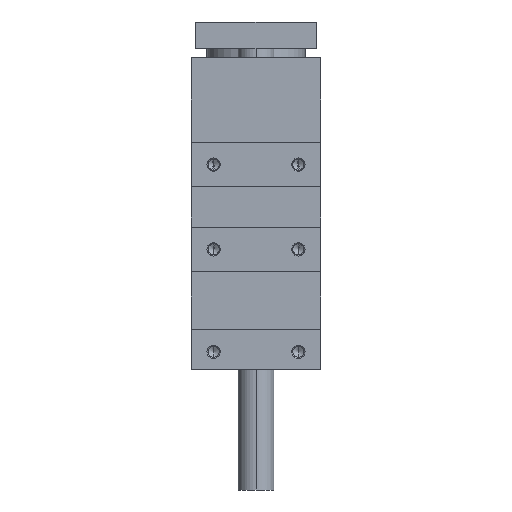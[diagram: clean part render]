
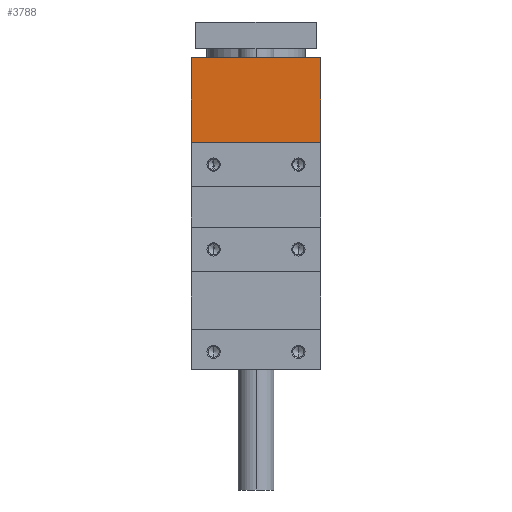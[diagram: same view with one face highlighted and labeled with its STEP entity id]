
A CAD part, left-side view. The second image highlights one B-rep face of the part: STEP entity #3788.
In plain terms, the highlighted planar face has unit normal (-1, 0, 0).
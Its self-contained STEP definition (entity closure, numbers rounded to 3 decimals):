
#331 = CARTESIAN_POINT ( 'NONE',  ( -57.2, -29., 59. ) ) ;
#369 = VECTOR ( 'NONE', #2069, 1000. ) ;
#513 = VERTEX_POINT ( 'NONE', #3651 ) ;
#927 = EDGE_CURVE ( 'NONE', #5107, #4729, #3640, .T. ) ;
#1210 = DIRECTION ( 'NONE',  ( 0., 1., 0. ) ) ;
#1611 = EDGE_CURVE ( 'NONE', #5946, #5107, #9985, .T. ) ;
#2001 = DIRECTION ( 'NONE',  ( 0., -1., 0. ) ) ;
#2024 = CARTESIAN_POINT ( 'NONE',  ( -57.2, -29., 0. ) ) ;
#2069 = DIRECTION ( 'NONE',  ( 0., 0., -1. ) ) ;
#2091 = DIRECTION ( 'NONE',  ( 0., -1., 0. ) ) ;
#2402 = VECTOR ( 'NONE', #3208, 1000. ) ;
#2729 = CARTESIAN_POINT ( 'NONE',  ( -57.2, 58., 21. ) ) ;
#2868 = CARTESIAN_POINT ( 'NONE',  ( -57.2, 58., 21. ) ) ;
#2889 = CARTESIAN_POINT ( 'NONE',  ( -57.2, 29., 59. ) ) ;
#3208 = DIRECTION ( 'NONE',  ( 0., 0., -1. ) ) ;
#3500 = LINE ( 'NONE', #2868, #7870 ) ;
#3640 = LINE ( 'NONE', #2024, #369 ) ;
#3651 = CARTESIAN_POINT ( 'NONE',  ( -57.2, 29., 21. ) ) ;
#3788 = ADVANCED_FACE ( 'NONE', ( #6672 ), #9833, .F. ) ;
#3845 = ORIENTED_EDGE ( 'NONE', *, *, #5790, .T. ) ;
#4381 = ORIENTED_EDGE ( 'NONE', *, *, #927, .F. ) ;
#4573 = EDGE_LOOP ( 'NONE', ( #3845, #6165, #4381, #9598 ) ) ;
#4729 = VERTEX_POINT ( 'NONE', #10153 ) ;
#5107 = VERTEX_POINT ( 'NONE', #331 ) ;
#5372 = CARTESIAN_POINT ( 'NONE',  ( -57.2, 58., 59. ) ) ;
#5790 = EDGE_CURVE ( 'NONE', #5946, #513, #6526, .T. ) ;
#5895 = DIRECTION ( 'NONE',  ( 1., 0., 0. ) ) ;
#5946 = VERTEX_POINT ( 'NONE', #2889 ) ;
#6165 = ORIENTED_EDGE ( 'NONE', *, *, #8952, .T. ) ;
#6526 = LINE ( 'NONE', #8858, #2402 ) ;
#6672 = FACE_OUTER_BOUND ( 'NONE', #4573, .T. ) ;
#6685 = AXIS2_PLACEMENT_3D ( 'NONE', #2729, #5895, #1210 ) ;
#7794 = VECTOR ( 'NONE', #2001, 1000. ) ;
#7870 = VECTOR ( 'NONE', #2091, 1000. ) ;
#8858 = CARTESIAN_POINT ( 'NONE',  ( -57.2, 29., 0. ) ) ;
#8952 = EDGE_CURVE ( 'NONE', #513, #4729, #3500, .T. ) ;
#9598 = ORIENTED_EDGE ( 'NONE', *, *, #1611, .F. ) ;
#9833 = PLANE ( 'NONE',  #6685 ) ;
#9985 = LINE ( 'NONE', #5372, #7794 ) ;
#10153 = CARTESIAN_POINT ( 'NONE',  ( -57.2, -29., 21. ) ) ;
